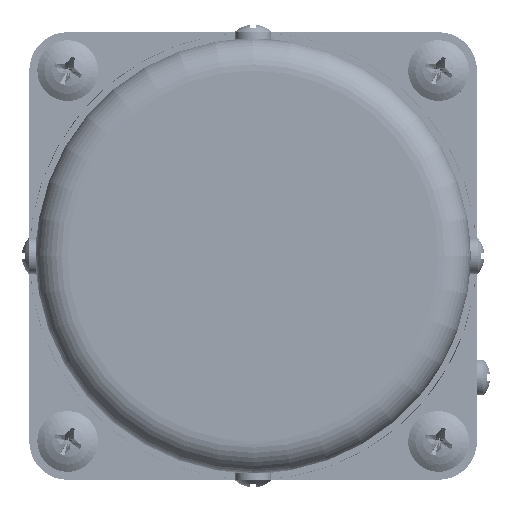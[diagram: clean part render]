
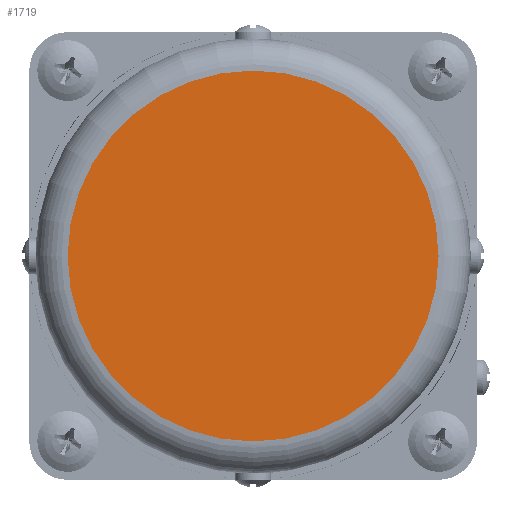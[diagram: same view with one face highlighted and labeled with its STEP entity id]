
A CAD part, left-side view. The second image highlights one B-rep face of the part: STEP entity #1719.
In plain terms, the highlighted planar face has unit normal (-1, 0, 0).
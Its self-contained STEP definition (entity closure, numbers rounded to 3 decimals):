
#937=PLANE('',#6370);
#1719=ADVANCED_FACE('',(#2105),#937,.T.);
#2105=FACE_OUTER_BOUND('',#2465,.T.);
#2465=EDGE_LOOP('',(#3289));
#3289=ORIENTED_EDGE('',*,*,#5202,.T.);
#4562=VERTEX_POINT('',#54264);
#5202=EDGE_CURVE('',#4562,#4562,#5903,.T.);
#5903=CIRCLE('',#6369,29.);
#6369=AXIS2_PLACEMENT_3D('',#54263,#7257,#7258);
#6370=AXIS2_PLACEMENT_3D('',#54265,#7259,#7260);
#7257=DIRECTION('',(-1.,0.,0.));
#7258=DIRECTION('',(0.,0.,-1.));
#7259=DIRECTION('',(-1.,0.,0.));
#7260=DIRECTION('',(0.,0.,-1.));
#54263=CARTESIAN_POINT('',(-146.,0.,0.));
#54264=CARTESIAN_POINT('',(-146.,0.,-29.));
#54265=CARTESIAN_POINT('',(-146.,0.,0.));
